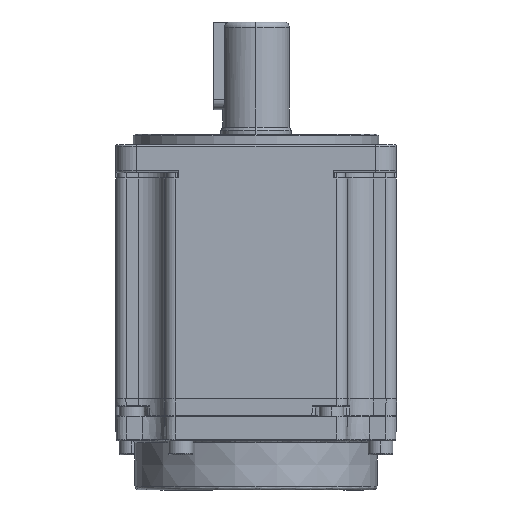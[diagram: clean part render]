
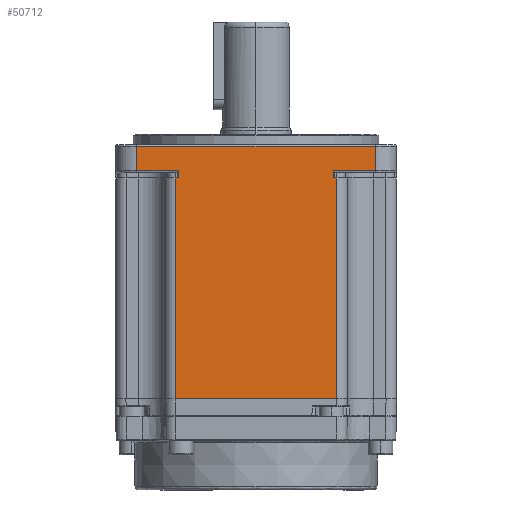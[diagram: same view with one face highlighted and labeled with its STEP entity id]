
A CAD part, front view. The second image highlights one B-rep face of the part: STEP entity #50712.
In plain terms, the highlighted planar face has unit normal (0, -1, 0).
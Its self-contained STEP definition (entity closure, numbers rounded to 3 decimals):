
#224 = ORIENTED_EDGE ( 'NONE', *, *, #85509, .T. ) ;
#491 = LINE ( 'NONE', #59753, #57557 ) ;
#1248 = ORIENTED_EDGE ( 'NONE', *, *, #24339, .T. ) ;
#2538 = ORIENTED_EDGE ( 'NONE', *, *, #11881, .T. ) ;
#2620 = FACE_OUTER_BOUND ( 'NONE', #62794, .T. ) ;
#3020 = VECTOR ( 'NONE', #88440, 1000. ) ;
#5538 = LINE ( 'NONE', #56824, #62570 ) ;
#5943 = CARTESIAN_POINT ( 'NONE',  ( 19.746, -44.704, 105.75 ) ) ;
#6786 = LINE ( 'NONE', #33475, #83621 ) ;
#8426 = EDGE_CURVE ( 'NONE', #9937, #69286, #50886, .T. ) ;
#8907 = VERTEX_POINT ( 'NONE', #77178 ) ;
#9937 = VERTEX_POINT ( 'NONE', #22339 ) ;
#11706 = VECTOR ( 'NONE', #75739, 1000. ) ;
#11881 = EDGE_CURVE ( 'NONE', #21348, #95657, #39016, .T. ) ;
#13650 = EDGE_CURVE ( 'NONE', #85298, #50821, #28214, .T. ) ;
#13674 = CARTESIAN_POINT ( 'NONE',  ( -25.254, -44.704, 42.75 ) ) ;
#15041 = EDGE_CURVE ( 'NONE', #95657, #87263, #53767, .T. ) ;
#17324 = ORIENTED_EDGE ( 'NONE', *, *, #32417, .T. ) ;
#18484 = DIRECTION ( 'NONE',  ( -1., 0., 0. ) ) ;
#19989 = CARTESIAN_POINT ( 'NONE',  ( -36.254, -44.704, 114.65 ) ) ;
#20735 = VECTOR ( 'NONE', #49686, 1000. ) ;
#21348 = VERTEX_POINT ( 'NONE', #69957 ) ;
#21417 = PLANE ( 'NONE',  #45368 ) ;
#21727 = DIRECTION ( 'NONE',  ( -1., 0., 0. ) ) ;
#22339 = CARTESIAN_POINT ( 'NONE',  ( 31.746, -44.704, 114.65 ) ) ;
#23793 = VERTEX_POINT ( 'NONE', #49753 ) ;
#24339 = EDGE_CURVE ( 'NONE', #8907, #9937, #5538, .T. ) ;
#25387 = LINE ( 'NONE', #27228, #20735 ) ;
#26585 = CARTESIAN_POINT ( 'NONE',  ( -36.254, -44.704, 114.65 ) ) ;
#27228 = CARTESIAN_POINT ( 'NONE',  ( -24.254, -44.704, 107.75 ) ) ;
#28214 = LINE ( 'NONE', #35996, #30539 ) ;
#28786 = DIRECTION ( 'NONE',  ( 0., 0., 1. ) ) ;
#28888 = DIRECTION ( 'NONE',  ( -1., 0., 0. ) ) ;
#30539 = VECTOR ( 'NONE', #35792, 1000. ) ;
#30630 = EDGE_CURVE ( 'NONE', #69286, #23793, #68523, .T. ) ;
#31221 = VERTEX_POINT ( 'NONE', #78801 ) ;
#31893 = CARTESIAN_POINT ( 'NONE',  ( -24.254, -44.704, 118.25 ) ) ;
#32417 = EDGE_CURVE ( 'NONE', #31221, #77859, #44937, .T. ) ;
#33350 = VECTOR ( 'NONE', #21727, 1000. ) ;
#33475 = CARTESIAN_POINT ( 'NONE',  ( 37.746, -44.704, 42.75 ) ) ;
#35792 = DIRECTION ( 'NONE',  ( 0., 0., 1. ) ) ;
#35996 = CARTESIAN_POINT ( 'NONE',  ( 19.746, -44.704, 118.25 ) ) ;
#39016 = LINE ( 'NONE', #52646, #96120 ) ;
#39324 = DIRECTION ( 'NONE',  ( 0., 0., -1. ) ) ;
#41109 = EDGE_CURVE ( 'NONE', #31221, #87263, #6786, .T. ) ;
#41474 = CARTESIAN_POINT ( 'NONE',  ( -25.254, -44.704, 105.75 ) ) ;
#43154 = ORIENTED_EDGE ( 'NONE', *, *, #8426, .T. ) ;
#43902 = CARTESIAN_POINT ( 'NONE',  ( 37.746, -44.704, 105.75 ) ) ;
#44937 = LINE ( 'NONE', #65891, #82205 ) ;
#45368 = AXIS2_PLACEMENT_3D ( 'NONE', #65690, #73426, #28888 ) ;
#45543 = ORIENTED_EDGE ( 'NONE', *, *, #80537, .T. ) ;
#46379 = DIRECTION ( 'NONE',  ( 0., 0., -1. ) ) ;
#46485 = ORIENTED_EDGE ( 'NONE', *, *, #55476, .T. ) ;
#48965 = LINE ( 'NONE', #31893, #86235 ) ;
#49308 = DIRECTION ( 'NONE',  ( 0., 0., 1. ) ) ;
#49686 = DIRECTION ( 'NONE',  ( 1., 0., 0. ) ) ;
#49753 = CARTESIAN_POINT ( 'NONE',  ( -36.254, -44.704, 107.75 ) ) ;
#50712 = ADVANCED_FACE ( 'NONE', ( #2620 ), #21417, .F. ) ;
#50821 = VERTEX_POINT ( 'NONE', #68197 ) ;
#50886 = LINE ( 'NONE', #19989, #33350 ) ;
#51554 = DIRECTION ( 'NONE',  ( -1., 0., 0. ) ) ;
#52341 = ORIENTED_EDGE ( 'NONE', *, *, #41109, .F. ) ;
#52424 = ORIENTED_EDGE ( 'NONE', *, *, #13650, .T. ) ;
#52646 = CARTESIAN_POINT ( 'NONE',  ( 37.746, -44.704, 105.75 ) ) ;
#53378 = CARTESIAN_POINT ( 'NONE',  ( -25.254, -44.704, 118.25 ) ) ;
#53767 = LINE ( 'NONE', #53378, #11706 ) ;
#55476 = EDGE_CURVE ( 'NONE', #77859, #85298, #79853, .T. ) ;
#56824 = CARTESIAN_POINT ( 'NONE',  ( 31.746, -44.704, 118.25 ) ) ;
#57022 = CARTESIAN_POINT ( 'NONE',  ( 20.746, -44.704, 105.75 ) ) ;
#57557 = VECTOR ( 'NONE', #67198, 1000. ) ;
#59753 = CARTESIAN_POINT ( 'NONE',  ( 37.746, -44.704, 107.75 ) ) ;
#59905 = EDGE_CURVE ( 'NONE', #50821, #8907, #491, .T. ) ;
#60155 = VERTEX_POINT ( 'NONE', #62610 ) ;
#62570 = VECTOR ( 'NONE', #49308, 1000. ) ;
#62610 = CARTESIAN_POINT ( 'NONE',  ( -24.254, -44.704, 107.75 ) ) ;
#62794 = EDGE_LOOP ( 'NONE', ( #52341, #17324, #46485, #52424, #66399, #1248, #43154, #71093, #45543, #224, #2538, #72430 ) ) ;
#65690 = CARTESIAN_POINT ( 'NONE',  ( 37.746, -44.704, 118.25 ) ) ;
#65891 = CARTESIAN_POINT ( 'NONE',  ( 20.746, -44.704, 118.25 ) ) ;
#66399 = ORIENTED_EDGE ( 'NONE', *, *, #59905, .T. ) ;
#67198 = DIRECTION ( 'NONE',  ( 1., 0., 0. ) ) ;
#68197 = CARTESIAN_POINT ( 'NONE',  ( 19.746, -44.704, 107.75 ) ) ;
#68523 = LINE ( 'NONE', #75996, #83686 ) ;
#69286 = VERTEX_POINT ( 'NONE', #26585 ) ;
#69957 = CARTESIAN_POINT ( 'NONE',  ( -24.254, -44.704, 105.75 ) ) ;
#71093 = ORIENTED_EDGE ( 'NONE', *, *, #30630, .T. ) ;
#72430 = ORIENTED_EDGE ( 'NONE', *, *, #15041, .T. ) ;
#73426 = DIRECTION ( 'NONE',  ( 0., 1., 0. ) ) ;
#75739 = DIRECTION ( 'NONE',  ( 0., 0., -1. ) ) ;
#75996 = CARTESIAN_POINT ( 'NONE',  ( -36.254, -44.704, 118.25 ) ) ;
#77178 = CARTESIAN_POINT ( 'NONE',  ( 31.746, -44.704, 107.75 ) ) ;
#77859 = VERTEX_POINT ( 'NONE', #57022 ) ;
#78801 = CARTESIAN_POINT ( 'NONE',  ( 20.746, -44.704, 42.75 ) ) ;
#79853 = LINE ( 'NONE', #43902, #3020 ) ;
#80537 = EDGE_CURVE ( 'NONE', #23793, #60155, #25387, .T. ) ;
#82205 = VECTOR ( 'NONE', #28786, 1000. ) ;
#83621 = VECTOR ( 'NONE', #18484, 1000. ) ;
#83686 = VECTOR ( 'NONE', #46379, 1000. ) ;
#85298 = VERTEX_POINT ( 'NONE', #5943 ) ;
#85509 = EDGE_CURVE ( 'NONE', #60155, #21348, #48965, .T. ) ;
#86235 = VECTOR ( 'NONE', #39324, 1000. ) ;
#87263 = VERTEX_POINT ( 'NONE', #13674 ) ;
#88440 = DIRECTION ( 'NONE',  ( -1., 0., 0. ) ) ;
#95657 = VERTEX_POINT ( 'NONE', #41474 ) ;
#96120 = VECTOR ( 'NONE', #51554, 1000. ) ;
